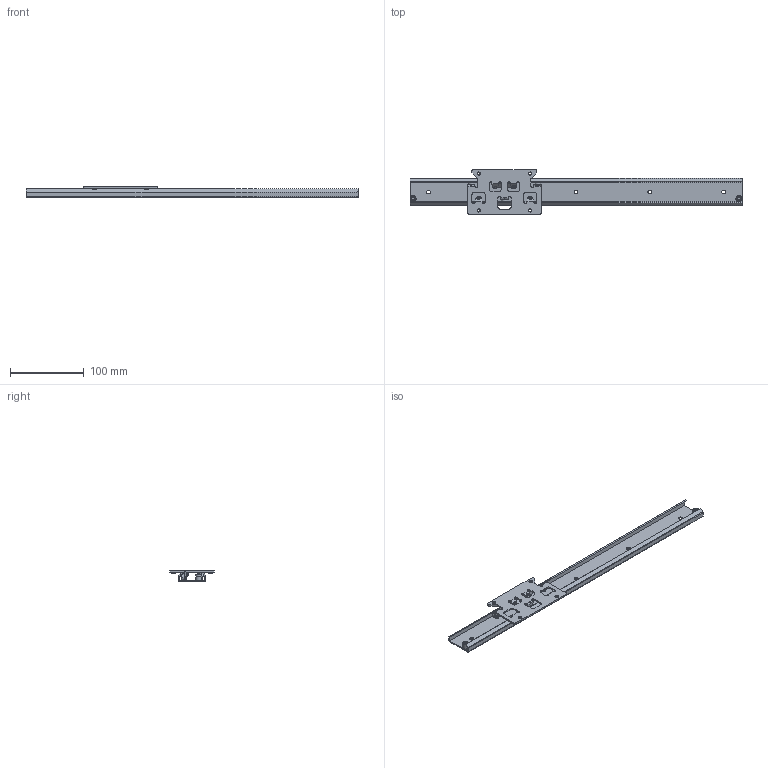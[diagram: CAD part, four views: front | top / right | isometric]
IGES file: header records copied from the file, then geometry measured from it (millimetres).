
Global section: native system: Kubotek KeyCreator; preprocessor: KCM Version 1.1.1442.0; author: KeyCreator User; organization: Self; date: 20181022.103812; units: millimetre
Bounding box: 450 x 60 x 14.8 mm (x, y, z)
Surface area: 70795.9 mm2 (no closed solid volume)
Topology: 0 solids, 0 shells, 911 faces, 5993 edges, 5994 vertices
Faces by surface type: bspline 911
